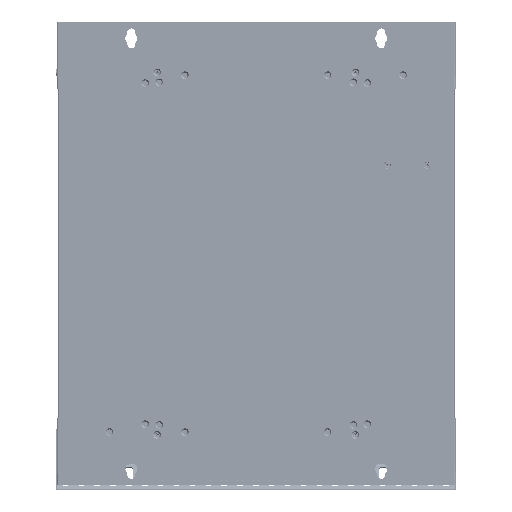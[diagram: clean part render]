
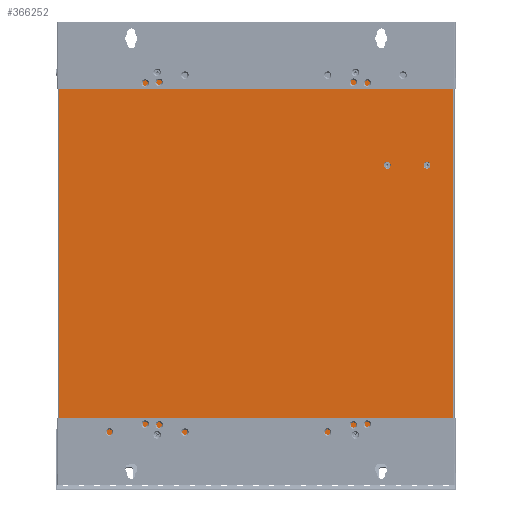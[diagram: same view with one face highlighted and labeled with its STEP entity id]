
A CAD part, front view. The second image highlights one B-rep face of the part: STEP entity #366252.
In plain terms, the highlighted planar face has unit normal (0, -1, 0).
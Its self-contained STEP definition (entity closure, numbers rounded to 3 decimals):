
#6215 = EDGE_CURVE ( 'NONE', #526414, #92739, #404957, .T. ) ;
#7356 = CIRCLE ( 'NONE', #181940, 4.3 ) ;
#9814 = DIRECTION ( 'NONE',  ( 0., 0., -1. ) ) ;
#10928 = FACE_BOUND ( 'NONE', #65259, .T. ) ;
#19402 = PLANE ( 'NONE',  #519492 ) ;
#21673 = EDGE_LOOP ( 'NONE', ( #177133, #77179 ) ) ;
#37545 = LINE ( 'NONE', #158649, #507315 ) ;
#37876 = AXIS2_PLACEMENT_3D ( 'NONE', #386058, #201915, #423562 ) ;
#48507 = CIRCLE ( 'NONE', #287210, 4.3 ) ;
#51692 = CARTESIAN_POINT ( 'NONE',  ( -250., -1.5, -228.5 ) ) ;
#57041 = DIRECTION ( 'NONE',  ( -1., 0., 0. ) ) ;
#59877 = CARTESIAN_POINT ( 'NONE',  ( 248.4, -1.5, 226.9 ) ) ;
#65259 = EDGE_LOOP ( 'NONE', ( #545290, #387023 ) ) ;
#77179 = ORIENTED_EDGE ( 'NONE', *, *, #135046, .F. ) ;
#82051 = VECTOR ( 'NONE', #307949, 1000. ) ;
#91267 = VERTEX_POINT ( 'NONE', #505345 ) ;
#92739 = VERTEX_POINT ( 'NONE', #496258 ) ;
#96011 = DIRECTION ( 'NONE',  ( 0., -1., 0. ) ) ;
#110176 = EDGE_CURVE ( 'NONE', #317833, #200072, #7356, .T. ) ;
#112051 = VECTOR ( 'NONE', #57041, 1000. ) ;
#116235 = AXIS2_PLACEMENT_3D ( 'NONE', #553540, #245648, #156470 ) ;
#116429 = EDGE_LOOP ( 'NONE', ( #346533, #382459 ) ) ;
#119551 = CARTESIAN_POINT ( 'NONE',  ( 125., -1.5, -220. ) ) ;
#121954 = LINE ( 'NONE', #510507, #527200 ) ;
#126276 = VERTEX_POINT ( 'NONE', #472839 ) ;
#135046 = EDGE_CURVE ( 'NONE', #347217, #337341, #48507, .T. ) ;
#156369 = EDGE_LOOP ( 'NONE', ( #385846, #374430 ) ) ;
#156470 = DIRECTION ( 'NONE',  ( 0., 0., -1. ) ) ;
#158608 = AXIS2_PLACEMENT_3D ( 'NONE', #119551, #295030, #165528 ) ;
#158649 = CARTESIAN_POINT ( 'NONE',  ( 248.4, -1.5, -228.5 ) ) ;
#165528 = DIRECTION ( 'NONE',  ( 0., 0., -1. ) ) ;
#173835 = CARTESIAN_POINT ( 'NONE',  ( 215.2, -1.5, 119.8 ) ) ;
#177133 = ORIENTED_EDGE ( 'NONE', *, *, #236394, .F. ) ;
#178384 = LINE ( 'NONE', #51692, #82051 ) ;
#181940 = AXIS2_PLACEMENT_3D ( 'NONE', #371058, #408564, #552189 ) ;
#200072 = VERTEX_POINT ( 'NONE', #466489 ) ;
#201915 = DIRECTION ( 'NONE',  ( 0., -1., 0. ) ) ;
#224239 = ORIENTED_EDGE ( 'NONE', *, *, #292316, .T. ) ;
#224726 = CARTESIAN_POINT ( 'NONE',  ( -125., -1.5, -215.7 ) ) ;
#230960 = CIRCLE ( 'NONE', #37876, 4.3 ) ;
#236394 = EDGE_CURVE ( 'NONE', #337341, #347217, #511480, .T. ) ;
#238581 = DIRECTION ( 'NONE',  ( 0., -1., 0. ) ) ;
#239282 = AXIS2_PLACEMENT_3D ( 'NONE', #173835, #96011, #309070 ) ;
#242814 = CARTESIAN_POINT ( 'NONE',  ( 248.4, -1.5, -228.5 ) ) ;
#243592 = EDGE_CURVE ( 'NONE', #489224, #427881, #178384, .T. ) ;
#245648 = DIRECTION ( 'NONE',  ( 0., -1., 0. ) ) ;
#250284 = CIRCLE ( 'NONE', #544446, 4.3 ) ;
#261206 = EDGE_CURVE ( 'NONE', #91267, #361733, #287095, .T. ) ;
#272359 = AXIS2_PLACEMENT_3D ( 'NONE', #371041, #238581, #290317 ) ;
#272802 = CARTESIAN_POINT ( 'NONE',  ( 0., -1.5, 0. ) ) ;
#278086 = CIRCLE ( 'NONE', #158608, 4.3 ) ;
#278465 = DIRECTION ( 'NONE',  ( 0., 1., 0. ) ) ;
#287095 = LINE ( 'NONE', #59877, #112051 ) ;
#287210 = AXIS2_PLACEMENT_3D ( 'NONE', #327943, #540962, #503445 ) ;
#290317 = DIRECTION ( 'NONE',  ( 0., 0., -1. ) ) ;
#290353 = EDGE_CURVE ( 'NONE', #126276, #325458, #278086, .T. ) ;
#291271 = ORIENTED_EDGE ( 'NONE', *, *, #243592, .F. ) ;
#292316 = EDGE_CURVE ( 'NONE', #489224, #91267, #37545, .T. ) ;
#295030 = DIRECTION ( 'NONE',  ( 0., -1., 0. ) ) ;
#307949 = DIRECTION ( 'NONE',  ( -1., 0., 0. ) ) ;
#309070 = DIRECTION ( 'NONE',  ( 0., 0., -1. ) ) ;
#314796 = EDGE_CURVE ( 'NONE', #92739, #526414, #501960, .T. ) ;
#317833 = VERTEX_POINT ( 'NONE', #224726 ) ;
#321693 = FACE_BOUND ( 'NONE', #156369, .T. ) ;
#323536 = ORIENTED_EDGE ( 'NONE', *, *, #501273, .T. ) ;
#325458 = VERTEX_POINT ( 'NONE', #487202 ) ;
#327943 = CARTESIAN_POINT ( 'NONE',  ( 165.2, -1.5, 119.8 ) ) ;
#337341 = VERTEX_POINT ( 'NONE', #549985 ) ;
#346533 = ORIENTED_EDGE ( 'NONE', *, *, #290353, .F. ) ;
#347217 = VERTEX_POINT ( 'NONE', #567156 ) ;
#355547 = CARTESIAN_POINT ( 'NONE',  ( -248.4, -1.5, 226.9 ) ) ;
#358131 = CARTESIAN_POINT ( 'NONE',  ( -125., -1.5, -220. ) ) ;
#361733 = VERTEX_POINT ( 'NONE', #355547 ) ;
#366252 = ADVANCED_FACE ( 'NONE', ( #10928, #405242, #408092, #321693, #502894 ), #19402, .F. ) ;
#371041 = CARTESIAN_POINT ( 'NONE',  ( 165.2, -1.5, 119.8 ) ) ;
#371058 = CARTESIAN_POINT ( 'NONE',  ( -125., -1.5, -220. ) ) ;
#374430 = ORIENTED_EDGE ( 'NONE', *, *, #110176, .F. ) ;
#375179 = EDGE_LOOP ( 'NONE', ( #499675, #323536, #291271, #224239 ) ) ;
#382459 = ORIENTED_EDGE ( 'NONE', *, *, #393206, .F. ) ;
#385846 = ORIENTED_EDGE ( 'NONE', *, *, #506318, .F. ) ;
#386058 = CARTESIAN_POINT ( 'NONE',  ( 125., -1.5, -220. ) ) ;
#387023 = ORIENTED_EDGE ( 'NONE', *, *, #6215, .F. ) ;
#389544 = DIRECTION ( 'NONE',  ( 0., 0., -1. ) ) ;
#393206 = EDGE_CURVE ( 'NONE', #325458, #126276, #230960, .T. ) ;
#404957 = CIRCLE ( 'NONE', #239282, 4.3 ) ;
#405242 = FACE_BOUND ( 'NONE', #21673, .T. ) ;
#408092 = FACE_BOUND ( 'NONE', #116429, .T. ) ;
#408564 = DIRECTION ( 'NONE',  ( 0., -1., 0. ) ) ;
#423562 = DIRECTION ( 'NONE',  ( 0., 0., -1. ) ) ;
#427881 = VERTEX_POINT ( 'NONE', #549149 ) ;
#453660 = CARTESIAN_POINT ( 'NONE',  ( 215.2, -1.5, 124.1 ) ) ;
#459706 = DIRECTION ( 'NONE',  ( 1., 0., 0. ) ) ;
#466489 = CARTESIAN_POINT ( 'NONE',  ( -125., -1.5, -224.3 ) ) ;
#472839 = CARTESIAN_POINT ( 'NONE',  ( 125., -1.5, -224.3 ) ) ;
#487202 = CARTESIAN_POINT ( 'NONE',  ( 125., -1.5, -215.7 ) ) ;
#489224 = VERTEX_POINT ( 'NONE', #242814 ) ;
#496258 = CARTESIAN_POINT ( 'NONE',  ( 215.2, -1.5, 115.5 ) ) ;
#499675 = ORIENTED_EDGE ( 'NONE', *, *, #261206, .T. ) ;
#501273 = EDGE_CURVE ( 'NONE', #361733, #427881, #121954, .T. ) ;
#501960 = CIRCLE ( 'NONE', #116235, 4.3 ) ;
#502894 = FACE_OUTER_BOUND ( 'NONE', #375179, .T. ) ;
#503445 = DIRECTION ( 'NONE',  ( 0., 0., -1. ) ) ;
#505345 = CARTESIAN_POINT ( 'NONE',  ( 248.4, -1.5, 226.9 ) ) ;
#506318 = EDGE_CURVE ( 'NONE', #200072, #317833, #250284, .T. ) ;
#507315 = VECTOR ( 'NONE', #558548, 1000. ) ;
#510507 = CARTESIAN_POINT ( 'NONE',  ( -248.4, -1.5, 228.5 ) ) ;
#511480 = CIRCLE ( 'NONE', #272359, 4.3 ) ;
#519492 = AXIS2_PLACEMENT_3D ( 'NONE', #272802, #278465, #459706 ) ;
#526414 = VERTEX_POINT ( 'NONE', #453660 ) ;
#527200 = VECTOR ( 'NONE', #389544, 1000. ) ;
#533603 = DIRECTION ( 'NONE',  ( 0., -1., 0. ) ) ;
#540962 = DIRECTION ( 'NONE',  ( 0., -1., 0. ) ) ;
#544446 = AXIS2_PLACEMENT_3D ( 'NONE', #358131, #533603, #9814 ) ;
#545290 = ORIENTED_EDGE ( 'NONE', *, *, #314796, .F. ) ;
#549149 = CARTESIAN_POINT ( 'NONE',  ( -248.4, -1.5, -228.5 ) ) ;
#549985 = CARTESIAN_POINT ( 'NONE',  ( 165.2, -1.5, 115.5 ) ) ;
#552189 = DIRECTION ( 'NONE',  ( 0., 0., -1. ) ) ;
#553540 = CARTESIAN_POINT ( 'NONE',  ( 215.2, -1.5, 119.8 ) ) ;
#558548 = DIRECTION ( 'NONE',  ( 0., 0., 1. ) ) ;
#567156 = CARTESIAN_POINT ( 'NONE',  ( 165.2, -1.5, 124.1 ) ) ;
